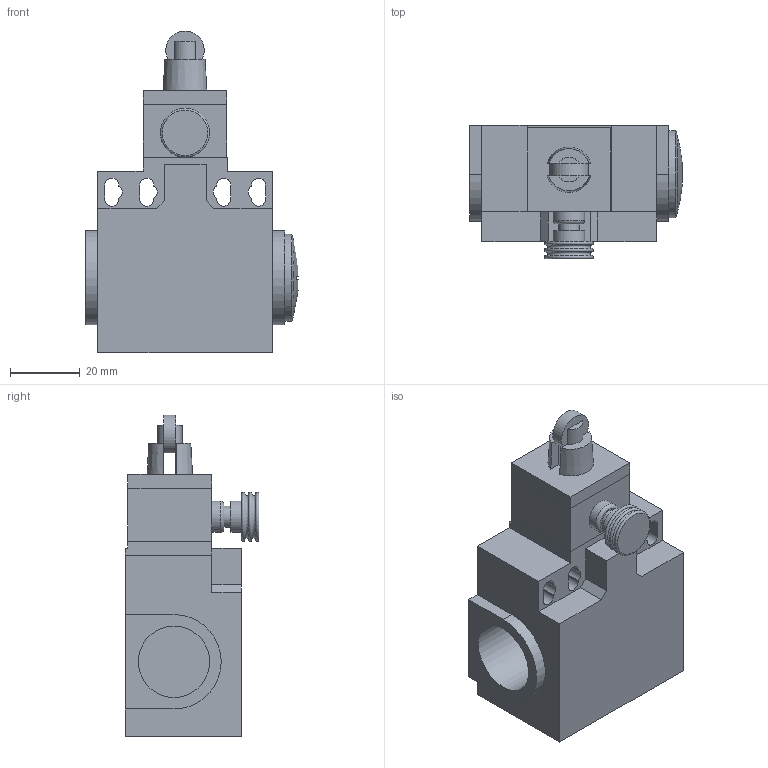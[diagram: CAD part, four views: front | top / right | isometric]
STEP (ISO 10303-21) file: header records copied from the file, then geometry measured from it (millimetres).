
FILE_DESCRIPTION((''),'2;1');
FILE_NAME('D:\Documenti_D\Corrispondenza\Comepi\Catalogo da fare\Modelli Nov 2011\DP\STEP\DP1-R13.iam.step','2011-11-17T12:04:35',(''),(''),'Autodesk Inventor 2010','Autodesk Inventor 2010','');
FILE_SCHEMA(('AUTOMOTIVE_DESIGN { 1 0 10303 214 1 1 1 1 }'));
Length unit declared in the file: millimetre
Products named in the file (8): DP1-R13; DP1; tappo; R13.iam; T12_1; T12_2; R
Assembly tree (7 placements, depth 3):
  DP1-R13
    DP1
      DP1
      tappo
    R13.iam
      T12_1
      T12_2
      R
Bounding box: 60.92 x 38.3 x 92.1 mm (x, y, z)
Volume: 83309.8 mm3; surface area: 25200.2 mm2
Topology: 5 solids, 5 shells, 107 faces, 265 edges, 173 vertices
Faces by surface type: plane 74, cylinder 23, torus 6, cone 3, sphere 1
Full cylindrical faces by diameter (mm): 6 x1, 7 x1, 9 x2, 11 x1, 20.4 x1, 25 x1
Entity records: 3365 total; most frequent: DIRECTION 556, CARTESIAN_POINT 550, ORIENTED_EDGE 498, EDGE_CURVE 249, AXIS2_PLACEMENT_3D 189, VECTOR 178, LINE 178, VERTEX_POINT 171
